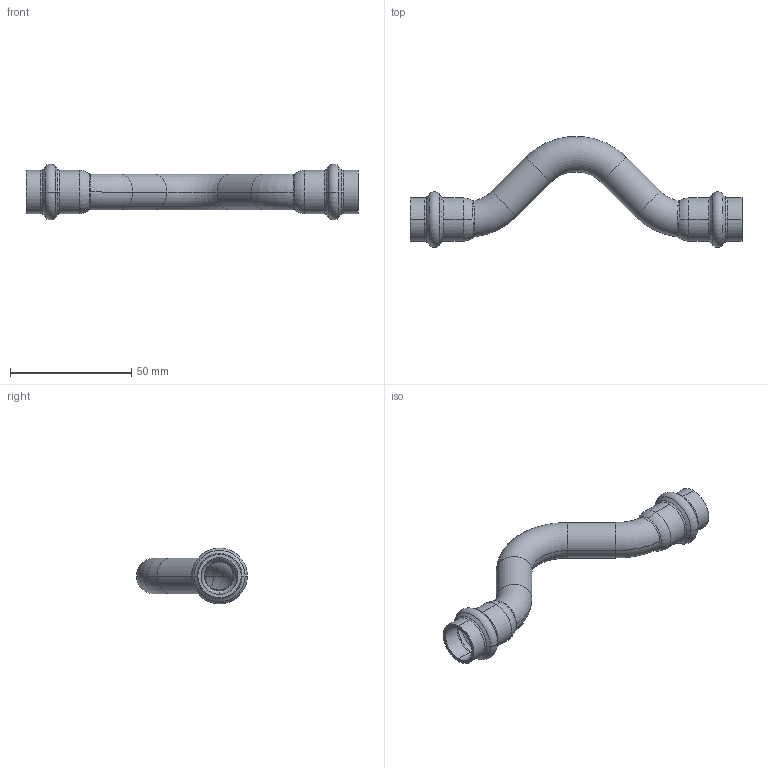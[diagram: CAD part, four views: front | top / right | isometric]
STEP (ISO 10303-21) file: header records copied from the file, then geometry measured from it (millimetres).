
FILE_DESCRIPTION (( 'STEP AP203' ), '1' );
FILE_NAME ('SP5085 Ø15.STEP', '2017-04-24T08:22:08', ( '' ), ( '' ), 'SwSTEP 2.0', 'SolidWorks 2016', '' );
FILE_SCHEMA (( 'CONFIG_CONTROL_DESIGN' ));
Length unit declared in the file: millimetre
Products named in the file (1): SP5085 ﾘ15
Bounding box: 137 x 45.74 x 23 mm (x, y, z)
Volume: 10813.6 mm3; surface area: 14860.4 mm2
Topology: 1 solids, 1 shells, 94 faces, 220 edges, 128 vertices
Faces by surface type: torus 44, cylinder 24, cone 16, bspline 8, plane 2
Entity records: 4393 total; most frequent: CARTESIAN_POINT 2147, DIRECTION 510, ORIENTED_EDGE 440, AXIS2_PLACEMENT_3D 235, EDGE_CURVE 220, CIRCLE 148, VERTEX_POINT 128, EDGE_LOOP 96
